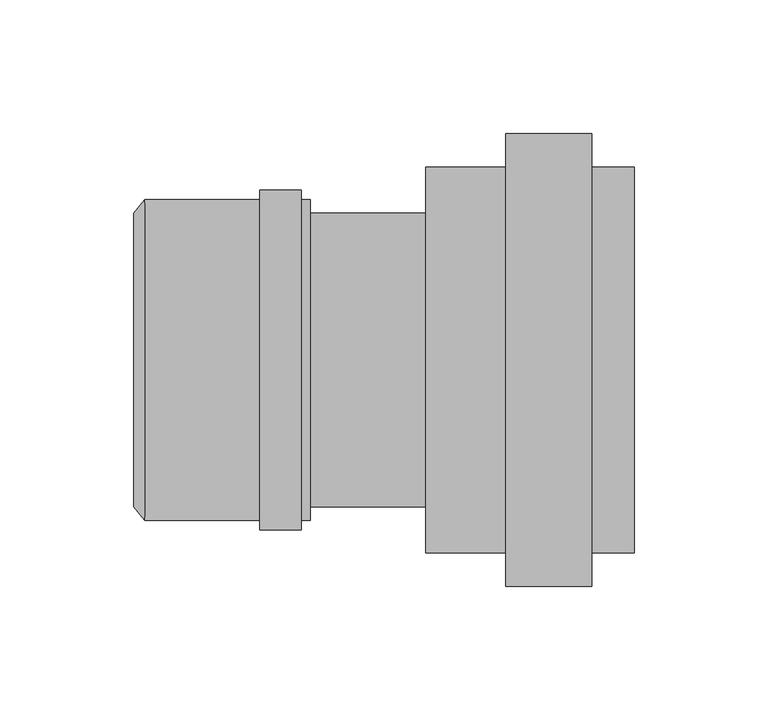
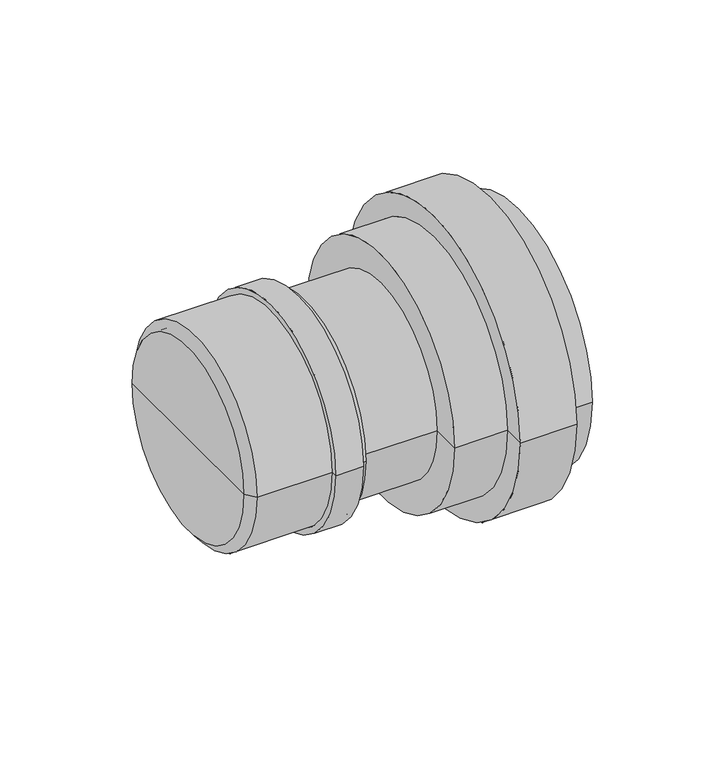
"""IFC4 building model written with IfcOpenShell, lengths in millimetres: pipe fitting geometry, pf_KGUS : pf_KGUS."""

from ifc_helpers import new_model, si_unit, point, frame, origin, origin_2d, place, context, project, spatial, polyline, circle_curve, trimmed, segment, composite_curve, outline, extrude, source, transform, mapped, element, save
from ifc_brep_helpers import plane_surface, cylinder_surface, revolved_surface, advanced_brep


def pipe_fitting_8aa33925(model_context):
    return source(origin(), model_context, "Body", "SolidModel", [
        advanced_brep(
        [(-109.2, 55.0, 0.0), (-109.2, -55.0, 0.0), (-105.0, -60.1, 0.0), (-105.0, 60.1, 0.0), (-109.2, 0.0, 0.0), (-43.2, 60.1, 0.0), (-43.2, -60.1, 0.0), (-43.2, -55.0, 0.0), (-43.2, 55.0, 0.0), (-46.6, 60.1, 0.0), (-46.6, -60.1, 0.0), (-46.6, 63.5, 0.0), (-46.6, -63.5, 0.0), (-62.1, 63.5, 0.0), (-62.1, -63.5, 0.0), (-62.1, 60.1, 0.0), (-62.1, -60.1, 0.0), (-105.0, 55.0, 0.0), (-105.0, -55.0, 0.0), (-105.0, 0.0, 0.0)],
        [
            (0, 1, circle_curve(frame((-109.2, 0.0, 0.0), z_axis=(1.0, 0.0, 0.0), x_axis=(0.0, -1.0, 0.0)), 55.0)),
            (1, 2),
            (2, 3, circle_curve(frame((-105.0, 0.0, 0.0), z_axis=(-1.0, 0.0, 0.0), x_axis=(0.0, -1.0, 0.0)), 60.1)),
            (3, 0),
            (1, 0, circle_curve(frame((-109.2, 0.0, 0.0), z_axis=(1.0, 0.0, 0.0), x_axis=(0.0, -1.0, 0.0)), 55.0)),
            (3, 2, circle_curve(frame((-105.0, 0.0, 0.0), z_axis=(-1.0, 0.0, 0.0), x_axis=(0.0, -1.0, 0.0)), 60.1)),
            (4, 1),
            (0, 4),
            (5, 6, circle_curve(frame((-43.2, 0.0, 0.0), z_axis=(1.0, 0.0, 0.0), x_axis=(0.0, -1.0, 0.0)), 60.1)),
            (6, 7),
            (7, 8, circle_curve(frame((-43.2, 0.0, 0.0), z_axis=(-1.0, 0.0, 0.0), x_axis=(0.0, -1.0, 0.0)), 55.0)),
            (8, 5),
            (6, 5, circle_curve(frame((-43.2, 0.0, 0.0), z_axis=(1.0, 0.0, 0.0), x_axis=(0.0, -1.0, 0.0)), 60.1)),
            (8, 7, circle_curve(frame((-43.2, 0.0, 0.0), z_axis=(-1.0, 0.0, 0.0), x_axis=(0.0, -1.0, 0.0)), 55.0)),
            (9, 10, circle_curve(frame((-46.6, 0.0, 0.0), z_axis=(1.0, 0.0, 0.0), x_axis=(0.0, -1.0, 0.0)), 60.1)),
            (10, 6),
            (5, 9),
            (10, 9, circle_curve(frame((-46.6, 0.0, 0.0), z_axis=(1.0, 0.0, 0.0), x_axis=(0.0, -1.0, 0.0)), 60.1)),
            (11, 12, circle_curve(frame((-46.6, 0.0, 0.0), z_axis=(1.0, 0.0, 0.0), x_axis=(0.0, -1.0, 0.0)), 63.5)),
            (12, 10),
            (9, 11),
            (12, 11, circle_curve(frame((-46.6, 0.0, 0.0), z_axis=(1.0, 0.0, 0.0), x_axis=(0.0, -1.0, 0.0)), 63.5)),
            (13, 14, circle_curve(frame((-62.1, 0.0, 0.0), z_axis=(1.0, 0.0, 0.0), x_axis=(0.0, -1.0, 0.0)), 63.5)),
            (14, 12),
            (11, 13),
            (14, 13, circle_curve(frame((-62.1, 0.0, 0.0), z_axis=(1.0, 0.0, 0.0), x_axis=(0.0, -1.0, 0.0)), 63.5)),
            (15, 16, circle_curve(frame((-62.1, 0.0, 0.0), z_axis=(1.0, 0.0, 0.0), x_axis=(0.0, -1.0, 0.0)), 60.1)),
            (16, 14),
            (13, 15),
            (16, 15, circle_curve(frame((-62.1, 0.0, 0.0), z_axis=(1.0, 0.0, 0.0), x_axis=(0.0, -1.0, 0.0)), 60.1)),
            (2, 16),
            (15, 3),
            (17, 18, circle_curve(frame((-105.0, 0.0, 0.0), z_axis=(1.0, 0.0, 0.0), x_axis=(0.0, -1.0, 0.0)), 55.0)),
            (18, 19),
            (19, 17),
            (18, 17, circle_curve(frame((-105.0, 0.0, 0.0), z_axis=(1.0, 0.0, 0.0), x_axis=(0.0, -1.0, 0.0)), 55.0)),
            (7, 18),
            (17, 8),
        ],
        [
            revolved_surface(polyline([(-105.0, -60.1, 0.0), (-109.2, -55.0, 0.0)]), (-109.2, 0.0, 0.0), (-1.0, 0.0, 0.0)),
            plane_surface(frame((-109.2, 0.0, 0.0), z_axis=(-1.0, 0.0, 0.0), x_axis=(0.0, -1.0, 0.0))),
            plane_surface(frame((-43.2, 0.0, 0.0), z_axis=(1.0, 0.0, 0.0), x_axis=(0.0, -1.0, 0.0))),
            cylinder_surface(frame((-109.2, 0.0, 0.0), z_axis=(-1.0, 0.0, 0.0), x_axis=(0.0, -1.0, 0.0)), 60.1),
            plane_surface(frame((-46.6, 0.0, 0.0), z_axis=(1.0, 0.0, 0.0), x_axis=(0.0, -1.0, 0.0))),
            cylinder_surface(frame((-109.2, 0.0, 0.0), z_axis=(-1.0, 0.0, 0.0), x_axis=(0.0, -1.0, 0.0)), 63.5),
            plane_surface(frame((-62.1, 0.0, 0.0), z_axis=(-1.0, 0.0, 0.0), x_axis=(0.0, -1.0, 0.0))),
            plane_surface(frame((-105.0, 0.0, 0.0), z_axis=(1.0, 0.0, 0.0), x_axis=(0.0, -1.0, 0.0))),
            revolved_surface(polyline([(-105.0, -55.0, 0.0), (-43.2, -55.0, 0.0)]), (-109.2, 0.0, 0.0), (-1.0, 0.0, 0.0)),
        ],
        [
            (0, [[1, 2, 3, 4]]),
            (0, [[5, -4, 6, -2]]),
            (1, [[7, -1, 8]]),
            (1, [[-8, -5, -7]]),
            (2, [[9, 10, 11, 12]]),
            (2, [[13, -12, 14, -10]]),
            (3, [[15, 16, -9, 17]]),
            (3, [[18, -17, -13, -16]]),
            (4, [[19, 20, -15, 21]]),
            (4, [[22, -21, -18, -20]]),
            (5, [[23, 24, -19, 25]]),
            (5, [[26, -25, -22, -24]]),
            (6, [[27, 28, -23, 29]]),
            (6, [[30, -29, -26, -28]]),
            (3, [[-3, 31, -27, 32]]),
            (3, [[-6, -32, -30, -31]]),
            (7, [[33, 34, 35]]),
            (7, [[36, -35, -34]]),
            (8, [[-11, 37, -33, 38]]),
            (8, [[-14, -38, -36, -37]]),
        ],
    ),
        extrude(outline(composite_curve([segment(trimmed(circle_curve(origin_2d(), 55.0), [point((-55.0, 0.0))], [point((55.0, 0.0))], False, "CARTESIAN"), True, "CONTINUOUS"), segment(trimmed(circle_curve(origin_2d(), 55.0), [point((55.0, 0.0))], [point((-55.0, 0.0))], False, "CARTESIAN"), True, "CONTINUOUS")], self_intersect=False)), frame((-43.2, 0.0, 0.0), z_axis=(1.0, 0.0, 0.0), x_axis=(0.0, 1.0, 0.0)), (0.0, 0.0, 1.0), 43.2),
        advanced_brep(
        [(78.0, -68.2, 0.0), (78.0, 68.2, 0.0), (30.0, 68.2, 0.0), (30.0, -68.2, 0.0), (62.0, -72.2, 0.0), (62.0, 72.2, 0.0), (78.0, 72.2, 0.0), (78.0, -72.2, 0.0), (0.0, 0.0, 0.0), (0.0, 72.2, 0.0), (0.0, -72.2, 0.0), (30.0, 0.0, 0.0), (30.0, -84.7, 0.0), (30.0, 84.7, 0.0), (62.0, 84.7, 0.0), (62.0, -84.7, 0.0), (30.0, 72.2, 0.0), (30.0, -72.2, 0.0)],
        [
            (0, 1, circle_curve(frame((78.0, 0.0, 0.0), z_axis=(1.0, 0.0, 0.0), x_axis=(0.0, 1.0, 0.0)), 68.2)),
            (1, 2),
            (2, 3, circle_curve(frame((30.0, 0.0, 0.0), z_axis=(-1.0, 0.0, 0.0), x_axis=(0.0, 1.0, 0.0)), 68.2)),
            (3, 0),
            (4, 5, circle_curve(frame((62.0, 0.0, 0.0), z_axis=(1.0, 0.0, 0.0), x_axis=(0.0, 1.0, 0.0)), 72.2)),
            (5, 6),
            (6, 7, circle_curve(frame((78.0, 0.0, 0.0), z_axis=(-1.0, 0.0, 0.0), x_axis=(0.0, 1.0, 0.0)), 72.2)),
            (7, 4),
            (8, 9),
            (9, 10, circle_curve(frame((0.0, 0.0, 0.0), z_axis=(-1.0, 0.0, 0.0), x_axis=(0.0, 1.0, 0.0)), 72.2)),
            (10, 8),
            (1, 0, circle_curve(frame((78.0, 0.0, 0.0), z_axis=(1.0, 0.0, 0.0), x_axis=(0.0, 1.0, 0.0)), 68.2)),
            (3, 2, circle_curve(frame((30.0, 0.0, 0.0), z_axis=(-1.0, 0.0, 0.0), x_axis=(0.0, 1.0, 0.0)), 68.2)),
            (5, 4, circle_curve(frame((62.0, 0.0, 0.0), z_axis=(1.0, 0.0, 0.0), x_axis=(0.0, 1.0, 0.0)), 72.2)),
            (7, 6, circle_curve(frame((78.0, 0.0, 0.0), z_axis=(-1.0, 0.0, 0.0), x_axis=(0.0, 1.0, 0.0)), 72.2)),
            (10, 9, circle_curve(frame((0.0, 0.0, 0.0), z_axis=(-1.0, 0.0, 0.0), x_axis=(0.0, 1.0, 0.0)), 72.2)),
            (2, 11),
            (11, 3),
            (6, 1),
            (0, 7),
            (12, 13, circle_curve(frame((30.0, 0.0, 0.0), z_axis=(1.0, 0.0, 0.0), x_axis=(0.0, 1.0, 0.0)), 84.7)),
            (13, 14),
            (14, 15, circle_curve(frame((62.0, 0.0, 0.0), z_axis=(-1.0, 0.0, 0.0), x_axis=(0.0, 1.0, 0.0)), 84.7)),
            (15, 12),
            (13, 12, circle_curve(frame((30.0, 0.0, 0.0), z_axis=(1.0, 0.0, 0.0), x_axis=(0.0, 1.0, 0.0)), 84.7)),
            (15, 14, circle_curve(frame((62.0, 0.0, 0.0), z_axis=(-1.0, 0.0, 0.0), x_axis=(0.0, 1.0, 0.0)), 84.7)),
            (9, 16),
            (16, 17, circle_curve(frame((30.0, 0.0, 0.0), z_axis=(-1.0, 0.0, 0.0), x_axis=(0.0, 1.0, 0.0)), 72.2)),
            (17, 10),
            (17, 16, circle_curve(frame((30.0, 0.0, 0.0), z_axis=(-1.0, 0.0, 0.0), x_axis=(0.0, 1.0, 0.0)), 72.2)),
            (14, 5),
            (4, 15),
            (16, 13),
            (12, 17),
        ],
        [
            revolved_surface(polyline([(30.0, 68.2, 0.0), (78.0, 68.2, 0.0)]), (81.0, 0.0, 0.0), (-1.0, 0.0, 0.0)),
            cylinder_surface(frame((81.0, 0.0, 0.0), z_axis=(-1.0, 0.0, 0.0), x_axis=(0.0, 1.0, 0.0)), 72.2),
            plane_surface(frame((0.0, 0.0, 0.0), z_axis=(-1.0, 0.0, 0.0), x_axis=(0.0, 1.0, 0.0))),
            plane_surface(frame((30.0, 0.0, 0.0), z_axis=(1.0, 0.0, 0.0), x_axis=(0.0, 1.0, 0.0))),
            plane_surface(frame((78.0, 0.0, 0.0), z_axis=(1.0, 0.0, 0.0), x_axis=(0.0, 1.0, 0.0))),
            cylinder_surface(frame((81.0, 0.0, 0.0), z_axis=(-1.0, 0.0, 0.0), x_axis=(0.0, 1.0, 0.0)), 84.7),
            plane_surface(frame((62.0, 0.0, 0.0), z_axis=(1.0, 0.0, 0.0), x_axis=(0.0, 1.0, 0.0))),
            plane_surface(frame((30.0, 0.0, 0.0), z_axis=(-1.0, 0.0, 0.0), x_axis=(0.0, 1.0, 0.0))),
        ],
        [
            (0, [[1, 2, 3, 4]]),
            (1, [[5, 6, 7, 8]]),
            (2, [[9, 10, 11]]),
            (0, [[12, -4, 13, -2]]),
            (1, [[14, -8, 15, -6]]),
            (2, [[-11, 16, -9]]),
            (3, [[-3, 17, 18]]),
            (3, [[-13, -18, -17]]),
            (4, [[-7, 19, -1, 20]]),
            (4, [[-15, -20, -12, -19]]),
            (5, [[21, 22, 23, 24]]),
            (5, [[25, -24, 26, -22]]),
            (1, [[-10, 27, 28, 29]]),
            (1, [[-16, -29, 30, -27]]),
            (6, [[-23, 31, -5, 32]]),
            (6, [[-26, -32, -14, -31]]),
            (7, [[-28, 33, -21, 34]]),
            (7, [[-30, -34, -25, -33]]),
        ],
    ),
    ])


if __name__ == "__main__":
    model = new_model("IFC4")
    model_context = context("Model", 3, world=origin())
    ifc_project = project(units=[si_unit("LENGTHUNIT", "METRE", prefix="MILLI")], contexts=[model_context])
    site = spatial("IfcSite", under=ifc_project)
    building = spatial("IfcBuilding", under=site)
    placement = place(None, origin())
    pipe_fitting_shape = pipe_fitting_8aa33925(model_context)
    element("IfcPipeFitting", 1, ObjectType="pf_KGUS : pf_KGUS", at=placement, inside=building, context=model_context, shape_type="MappedRepresentation", body=[
        mapped(pipe_fitting_shape, transform((0.0, 0.0, 0.0), x_axis=(1.0, 0.0, 0.0), y_axis=(0.0, 1.0, 0.0), z_axis=(0.0, 0.0, 1.0))),
    ])
    save(model, "model.ifc")
